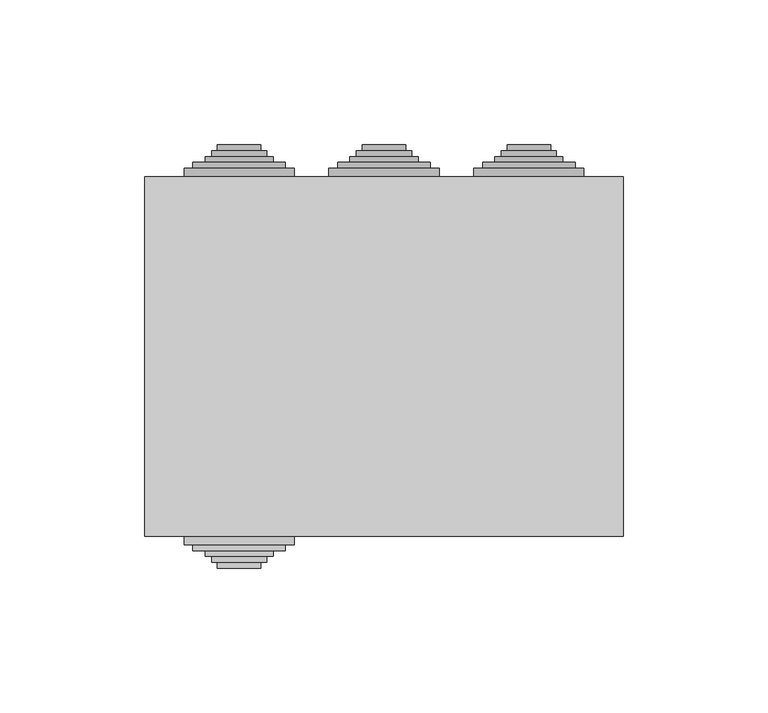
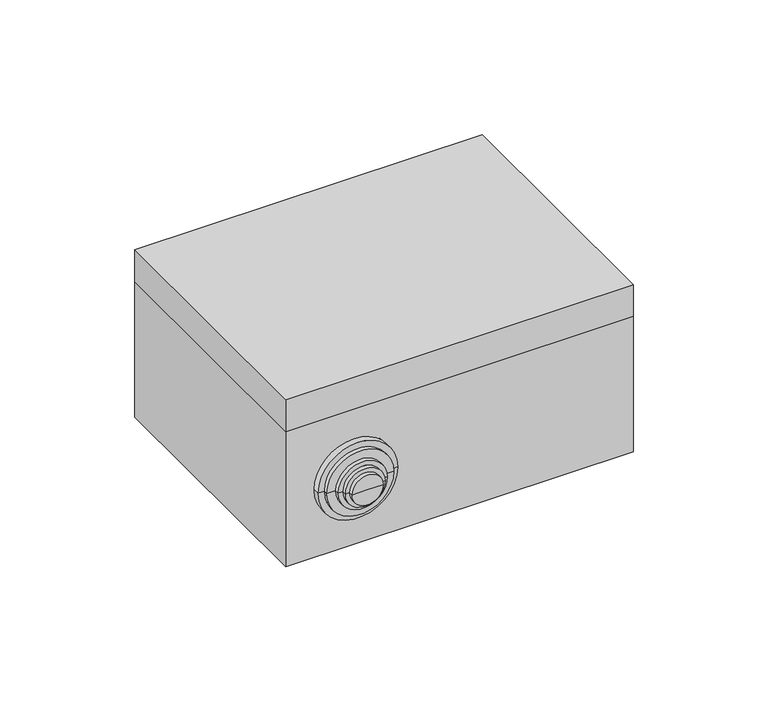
"""IFC4 building model written with IfcOpenShell, lengths in millimetres: cable carrier fitting geometry, КНС_КоробкаОтветвительнаяСКабельнымиВводами_10_IP55_DKC : с 10 кабельными вводами д.25мм, IP55, 150х110х70мм."""

from ifc_helpers import new_model, si_unit, frame, origin, place, context, project, spatial, polyline, circle_curve, faceted_brep, source, transform, mapped, element, save
from ifc_brep_helpers import plane_surface, cylinder_surface, revolved_surface, advanced_brep


def cable_carrier_fitting_b689ec4e(model_context):
    return source(origin(), model_context, "Body", "SolidModel", [
        advanced_brep(
        [(-34.0, -60.0, 34.0), (-66.0, -60.0, 34.0), (-69.0, -60.0, 34.0), (-31.0, -60.0, 34.0), (-34.0, -62.0, 34.0), (-66.0, -62.0, 34.0), (-31.0, -62.0, 34.0), (-69.0, -62.0, 34.0), (-31.0, -65.0, 34.0), (-69.0, -65.0, 34.0), (-34.0, -65.0, 34.0), (-66.0, -65.0, 34.0), (-34.0, -67.0, 34.0), (-66.0, -67.0, 34.0), (-38.25, -67.0, 34.0), (-61.75, -67.0, 34.0), (-38.25, -69.0, 34.0), (-61.75, -69.0, 34.0), (-40.5, -69.0, 34.0), (-59.5, -69.0, 34.0), (-40.5, -71.0, 34.0), (-59.5, -71.0, 34.0), (-42.5, -71.0, 34.0), (-57.5, -71.0, 34.0), (-42.5, -73.0, 34.0), (-57.5, -73.0, 34.0), (-50.0, -73.0, 34.0), (-34.0, -53.0, 34.0), (-66.0, -53.0, 34.0), (-50.0, -53.0, 34.0), (-31.0, -57.7491137, 34.0), (-69.0, -57.7491137, 34.0)],
        [
            (0, 1, circle_curve(frame((-50.0, -60.0, 34.0), z_axis=(0.0, 1.0, 0.0), x_axis=(-1.0000000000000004, 0.0, 0.0)), 16.0)),
            (1, 2),
            (2, 3, circle_curve(frame((-50.0, -60.0, 34.0), z_axis=(0.0, -1.0, 0.0), x_axis=(-1.0000000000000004, 0.0, 0.0)), 19.0)),
            (3, 0),
            (1, 0, circle_curve(frame((-50.0, -60.0, 34.0), z_axis=(0.0, 1.0, 0.0), x_axis=(-1.0000000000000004, 0.0, 0.0)), 16.0)),
            (3, 2, circle_curve(frame((-50.0, -60.0, 34.0), z_axis=(0.0, -1.0, 0.0), x_axis=(-1.0000000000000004, 0.0, 0.0)), 19.0)),
            (4, 5, circle_curve(frame((-50.0, -62.0, 34.0), z_axis=(0.0, 1.0, 0.0), x_axis=(-1.0000000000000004, 0.0, 0.0)), 16.0)),
            (5, 1),
            (0, 4),
            (5, 4, circle_curve(frame((-50.0, -62.0, 34.0), z_axis=(0.0, 1.0, 0.0), x_axis=(-1.0000000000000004, 0.0, 0.0)), 16.0)),
            (6, 7, circle_curve(frame((-50.0, -62.0, 34.0), z_axis=(0.0, 1.0, 0.0), x_axis=(-1.0000000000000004, 0.0, 0.0)), 19.0)),
            (7, 5),
            (4, 6),
            (7, 6, circle_curve(frame((-50.0, -62.0, 34.0), z_axis=(0.0, 1.0, 0.0), x_axis=(-1.0000000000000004, 0.0, 0.0)), 19.0)),
            (8, 9, circle_curve(frame((-50.0, -65.0, 34.0), z_axis=(0.0, 1.0, 0.0), x_axis=(-1.0000000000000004, 0.0, 0.0)), 19.0)),
            (9, 7),
            (6, 8),
            (9, 8, circle_curve(frame((-50.0, -65.0, 34.0), z_axis=(0.0, 1.0, 0.0), x_axis=(-1.0000000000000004, 0.0, 0.0)), 19.0)),
            (10, 11, circle_curve(frame((-50.0, -65.0, 34.0), z_axis=(0.0, 1.0, 0.0), x_axis=(-1.0000000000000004, 0.0, 0.0)), 16.0)),
            (11, 9),
            (8, 10),
            (11, 10, circle_curve(frame((-50.0, -65.0, 34.0), z_axis=(0.0, 1.0, 0.0), x_axis=(-1.0000000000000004, 0.0, 0.0)), 16.0)),
            (12, 13, circle_curve(frame((-50.0, -67.0, 34.0), z_axis=(0.0, 1.0, 0.0), x_axis=(-1.0000000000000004, 0.0, 0.0)), 16.0)),
            (13, 11),
            (10, 12),
            (13, 12, circle_curve(frame((-50.0, -67.0, 34.0), z_axis=(0.0, 1.0, 0.0), x_axis=(-1.0000000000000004, 0.0, 0.0)), 16.0)),
            (14, 15, circle_curve(frame((-50.0, -67.0, 34.0), z_axis=(0.0, 1.0, 0.0), x_axis=(-1.0000000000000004, 0.0, 0.0)), 11.75)),
            (15, 13),
            (12, 14),
            (15, 14, circle_curve(frame((-50.0, -67.0, 34.0), z_axis=(0.0, 1.0, 0.0), x_axis=(-1.0000000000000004, 0.0, 0.0)), 11.75)),
            (16, 17, circle_curve(frame((-50.0, -69.0, 34.0), z_axis=(0.0, 1.0, 0.0), x_axis=(-1.0000000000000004, 0.0, 0.0)), 11.75)),
            (17, 15),
            (14, 16),
            (17, 16, circle_curve(frame((-50.0, -69.0, 34.0), z_axis=(0.0, 1.0, 0.0), x_axis=(-1.0000000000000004, 0.0, 0.0)), 11.75)),
            (18, 19, circle_curve(frame((-50.0, -69.0, 34.0), z_axis=(0.0, 1.0, 0.0), x_axis=(-1.0000000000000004, 0.0, 0.0)), 9.5)),
            (19, 17),
            (16, 18),
            (19, 18, circle_curve(frame((-50.0, -69.0, 34.0), z_axis=(0.0, 1.0, 0.0), x_axis=(-1.0000000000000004, 0.0, 0.0)), 9.5)),
            (20, 21, circle_curve(frame((-50.0, -71.0, 34.0), z_axis=(0.0, 1.0, 0.0), x_axis=(-1.0000000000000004, 0.0, 0.0)), 9.5)),
            (21, 19),
            (18, 20),
            (21, 20, circle_curve(frame((-50.0, -71.0, 34.0), z_axis=(0.0, 1.0, 0.0), x_axis=(-1.0000000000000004, 0.0, 0.0)), 9.5)),
            (22, 23, circle_curve(frame((-50.0, -71.0, 34.0), z_axis=(0.0, 1.0, 0.0), x_axis=(-1.0000000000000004, 0.0, 0.0)), 7.5)),
            (23, 21),
            (20, 22),
            (23, 22, circle_curve(frame((-50.0, -71.0, 34.0), z_axis=(0.0, 1.0, 0.0), x_axis=(-1.0000000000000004, 0.0, 0.0)), 7.5)),
            (24, 25, circle_curve(frame((-50.0, -73.0, 34.0), z_axis=(0.0, 1.0, 0.0), x_axis=(-1.0000000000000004, 0.0, 0.0)), 7.5)),
            (25, 23),
            (22, 24),
            (25, 24, circle_curve(frame((-50.0, -73.0, 34.0), z_axis=(0.0, 1.0, 0.0), x_axis=(-1.0000000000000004, 0.0, 0.0)), 7.5)),
            (26, 25),
            (24, 26),
            (27, 28, circle_curve(frame((-50.0, -53.0, 34.0), z_axis=(0.0, 1.0, 0.0), x_axis=(-1.0000000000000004, 0.0, 0.0)), 16.0)),
            (28, 29),
            (29, 27),
            (28, 27, circle_curve(frame((-50.0, -53.0, 34.0), z_axis=(0.0, 1.0, 0.0), x_axis=(-1.0000000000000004, 0.0, 0.0)), 16.0)),
            (30, 31, circle_curve(frame((-50.0, -57.7491137, 34.0), z_axis=(0.0, 1.0, 0.0), x_axis=(-1.0000000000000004, 0.0, 0.0)), 19.0)),
            (31, 28),
            (27, 30),
            (31, 30, circle_curve(frame((-50.0, -57.7491137, 34.0), z_axis=(0.0, 1.0, 0.0), x_axis=(-1.0000000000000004, 0.0, 0.0)), 19.0)),
            (2, 31),
            (30, 3),
        ],
        [
            plane_surface(frame((-50.0, -60.0, 34.0), z_axis=(0.0, -1.0, 0.0), x_axis=(-1.0, 0.0, 0.0))),
            cylinder_surface(frame((-50.0, 1453.0, 34.0), z_axis=(0.0, -1.0000000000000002, 0.0), x_axis=(-1.0000000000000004, 0.0, 0.0)), 16.0),
            plane_surface(frame((-50.0, -62.0, 34.0), z_axis=(0.0, 1.0, 0.0), x_axis=(-1.0, 0.0, 0.0))),
            cylinder_surface(frame((-50.0, 1453.0, 34.0), z_axis=(0.0, -1.0000000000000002, 0.0), x_axis=(-1.0000000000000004, 0.0, 0.0)), 19.0),
            plane_surface(frame((-50.0, -65.0, 34.0), z_axis=(0.0, -1.0, 0.0), x_axis=(-1.0, 0.0, 0.0))),
            plane_surface(frame((-50.0, -67.0, 34.0), z_axis=(0.0, -1.0, 0.0), x_axis=(-1.0, 0.0, 0.0))),
            cylinder_surface(frame((-50.0, 1453.0, 34.0), z_axis=(0.0, -1.0000000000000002, 0.0), x_axis=(-1.0000000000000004, 0.0, 0.0)), 11.75),
            plane_surface(frame((-50.0, -69.0, 34.0), z_axis=(0.0, -1.0, 0.0), x_axis=(-1.0, 0.0, 0.0))),
            cylinder_surface(frame((-50.0, 1453.0, 34.0), z_axis=(0.0, -1.0000000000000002, 0.0), x_axis=(-1.0000000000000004, 0.0, 0.0)), 9.5),
            plane_surface(frame((-50.0, -71.0, 34.0), z_axis=(0.0, -1.0, 0.0), x_axis=(-1.0, 0.0, 0.0))),
            cylinder_surface(frame((-50.0, 1453.0, 34.0), z_axis=(0.0, -1.0000000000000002, 0.0), x_axis=(-1.0000000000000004, 0.0, 0.0)), 7.5),
            plane_surface(frame((-50.0, -73.0, 34.0), z_axis=(0.0, -1.0, 0.0), x_axis=(-1.0, 0.0, 0.0))),
            plane_surface(frame((-50.0, -53.0, 34.0), z_axis=(0.0, 1.0, 0.0), x_axis=(-1.0, 0.0, 0.0))),
            revolved_surface(polyline([(-66.0, -53.0, 34.0), (-69.0, -57.7491137, 34.0)]), (-50.0, 1453.0, 34.0), (0.0, -1.0000000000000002, 0.0)),
        ],
        [
            (0, [[1, 2, 3, 4]]),
            (0, [[5, -4, 6, -2]]),
            (1, [[7, 8, -1, 9]]),
            (1, [[10, -9, -5, -8]]),
            (2, [[11, 12, -7, 13]]),
            (2, [[14, -13, -10, -12]]),
            (3, [[15, 16, -11, 17]]),
            (3, [[18, -17, -14, -16]]),
            (4, [[19, 20, -15, 21]]),
            (4, [[22, -21, -18, -20]]),
            (1, [[23, 24, -19, 25]]),
            (1, [[26, -25, -22, -24]]),
            (5, [[27, 28, -23, 29]]),
            (5, [[30, -29, -26, -28]]),
            (6, [[31, 32, -27, 33]]),
            (6, [[34, -33, -30, -32]]),
            (7, [[35, 36, -31, 37]]),
            (7, [[38, -37, -34, -36]]),
            (8, [[39, 40, -35, 41]]),
            (8, [[42, -41, -38, -40]]),
            (9, [[43, 44, -39, 45]]),
            (9, [[46, -45, -42, -44]]),
            (10, [[47, 48, -43, 49]]),
            (10, [[50, -49, -46, -48]]),
            (11, [[51, -47, 52]]),
            (11, [[-52, -50, -51]]),
            (12, [[53, 54, 55]]),
            (12, [[56, -55, -54]]),
            (13, [[57, 58, -53, 59]]),
            (13, [[60, -59, -56, -58]]),
            (3, [[-3, 61, -57, 62]]),
            (3, [[-6, -62, -60, -61]]),
        ],
    ),
        advanced_brep(
        [(34.0, 60.0, 34.0), (66.0, 60.0, 34.0), (69.0, 60.0, 34.0), (31.0, 60.0, 34.0), (34.0, 62.0, 34.0), (66.0, 62.0, 34.0), (31.0, 62.0, 34.0), (69.0, 62.0, 34.0), (31.0, 65.0, 34.0), (69.0, 65.0, 34.0), (34.0, 65.0, 34.0), (66.0, 65.0, 34.0), (34.0, 67.0, 34.0), (66.0, 67.0, 34.0), (38.25, 67.0, 34.0), (61.75, 67.0, 34.0), (38.25, 69.0, 34.0), (61.75, 69.0, 34.0), (40.5, 69.0, 34.0), (59.5, 69.0, 34.0), (40.5, 71.0, 34.0), (59.5, 71.0, 34.0), (42.5, 71.0, 34.0), (57.5, 71.0, 34.0), (42.5, 73.0, 34.0), (57.5, 73.0, 34.0), (50.0, 73.0, 34.0), (34.0, 53.0, 34.0), (66.0, 53.0, 34.0), (50.0, 53.0, 34.0), (31.0, 57.7491137, 34.0), (69.0, 57.7491137, 34.0)],
        [
            (0, 1, circle_curve(frame((50.0, 60.0, 34.0), z_axis=(0.0, -1.0, 0.0), x_axis=(1.0, 0.0, 0.0)), 16.0)),
            (1, 2),
            (2, 3, circle_curve(frame((50.0, 60.0, 34.0), z_axis=(0.0, 1.0, 0.0), x_axis=(1.0, 0.0, 0.0)), 19.0)),
            (3, 0),
            (1, 0, circle_curve(frame((50.0, 60.0, 34.0), z_axis=(0.0, -1.0, 0.0), x_axis=(1.0, 0.0, 0.0)), 16.0)),
            (3, 2, circle_curve(frame((50.0, 60.0, 34.0), z_axis=(0.0, 1.0, 0.0), x_axis=(1.0, 0.0, 0.0)), 19.0)),
            (4, 5, circle_curve(frame((50.0, 62.0, 34.0), z_axis=(0.0, -1.0, 0.0), x_axis=(1.0, 0.0, 0.0)), 16.0)),
            (5, 1),
            (0, 4),
            (5, 4, circle_curve(frame((50.0, 62.0, 34.0), z_axis=(0.0, -1.0, 0.0), x_axis=(1.0, 0.0, 0.0)), 16.0)),
            (6, 7, circle_curve(frame((50.0, 62.0, 34.0), z_axis=(0.0, -1.0, 0.0), x_axis=(1.0, 0.0, 0.0)), 19.0)),
            (7, 5),
            (4, 6),
            (7, 6, circle_curve(frame((50.0, 62.0, 34.0), z_axis=(0.0, -1.0, 0.0), x_axis=(1.0, 0.0, 0.0)), 19.0)),
            (8, 9, circle_curve(frame((50.0, 65.0, 34.0), z_axis=(0.0, -1.0, 0.0), x_axis=(1.0, 0.0, 0.0)), 19.0)),
            (9, 7),
            (6, 8),
            (9, 8, circle_curve(frame((50.0, 65.0, 34.0), z_axis=(0.0, -1.0, 0.0), x_axis=(1.0, 0.0, 0.0)), 19.0)),
            (10, 11, circle_curve(frame((50.0, 65.0, 34.0), z_axis=(0.0, -1.0, 0.0), x_axis=(1.0, 0.0, 0.0)), 16.0)),
            (11, 9),
            (8, 10),
            (11, 10, circle_curve(frame((50.0, 65.0, 34.0), z_axis=(0.0, -1.0, 0.0), x_axis=(1.0, 0.0, 0.0)), 16.0)),
            (12, 13, circle_curve(frame((50.0, 67.0, 34.0), z_axis=(0.0, -1.0, 0.0), x_axis=(1.0, 0.0, 0.0)), 16.0)),
            (13, 11),
            (10, 12),
            (13, 12, circle_curve(frame((50.0, 67.0, 34.0), z_axis=(0.0, -1.0, 0.0), x_axis=(1.0, 0.0, 0.0)), 16.0)),
            (14, 15, circle_curve(frame((50.0, 67.0, 34.0), z_axis=(0.0, -1.0, 0.0), x_axis=(1.0, 0.0, 0.0)), 11.75)),
            (15, 13),
            (12, 14),
            (15, 14, circle_curve(frame((50.0, 67.0, 34.0), z_axis=(0.0, -1.0, 0.0), x_axis=(1.0, 0.0, 0.0)), 11.75)),
            (16, 17, circle_curve(frame((50.0, 69.0, 34.0), z_axis=(0.0, -1.0, 0.0), x_axis=(1.0, 0.0, 0.0)), 11.75)),
            (17, 15),
            (14, 16),
            (17, 16, circle_curve(frame((50.0, 69.0, 34.0), z_axis=(0.0, -1.0, 0.0), x_axis=(1.0, 0.0, 0.0)), 11.75)),
            (18, 19, circle_curve(frame((50.0, 69.0, 34.0), z_axis=(0.0, -1.0, 0.0), x_axis=(1.0, 0.0, 0.0)), 9.5)),
            (19, 17),
            (16, 18),
            (19, 18, circle_curve(frame((50.0, 69.0, 34.0), z_axis=(0.0, -1.0, 0.0), x_axis=(1.0, 0.0, 0.0)), 9.5)),
            (20, 21, circle_curve(frame((50.0, 71.0, 34.0), z_axis=(0.0, -1.0, 0.0), x_axis=(1.0, 0.0, 0.0)), 9.5)),
            (21, 19),
            (18, 20),
            (21, 20, circle_curve(frame((50.0, 71.0, 34.0), z_axis=(0.0, -1.0, 0.0), x_axis=(1.0, 0.0, 0.0)), 9.5)),
            (22, 23, circle_curve(frame((50.0, 71.0, 34.0), z_axis=(0.0, -1.0, 0.0), x_axis=(1.0, 0.0, 0.0)), 7.5)),
            (23, 21),
            (20, 22),
            (23, 22, circle_curve(frame((50.0, 71.0, 34.0), z_axis=(0.0, -1.0, 0.0), x_axis=(1.0, 0.0, 0.0)), 7.5)),
            (24, 25, circle_curve(frame((50.0, 73.0, 34.0), z_axis=(0.0, -1.0, 0.0), x_axis=(1.0, 0.0, 0.0)), 7.5)),
            (25, 23),
            (22, 24),
            (25, 24, circle_curve(frame((50.0, 73.0, 34.0), z_axis=(0.0, -1.0, 0.0), x_axis=(1.0, 0.0, 0.0)), 7.5)),
            (26, 25),
            (24, 26),
            (27, 28, circle_curve(frame((50.0, 53.0, 34.0), z_axis=(0.0, -1.0, 0.0), x_axis=(1.0, 0.0, 0.0)), 16.0)),
            (28, 29),
            (29, 27),
            (28, 27, circle_curve(frame((50.0, 53.0, 34.0), z_axis=(0.0, -1.0, 0.0), x_axis=(1.0, 0.0, 0.0)), 16.0)),
            (30, 31, circle_curve(frame((50.0, 57.7491137, 34.0), z_axis=(0.0, -1.0, 0.0), x_axis=(1.0, 0.0, 0.0)), 19.0)),
            (31, 28),
            (27, 30),
            (31, 30, circle_curve(frame((50.0, 57.7491137, 34.0), z_axis=(0.0, -1.0, 0.0), x_axis=(1.0, 0.0, 0.0)), 19.0)),
            (2, 31),
            (30, 3),
        ],
        [
            plane_surface(frame((50.0, 60.0, 34.0), z_axis=(0.0, 1.0, 0.0), x_axis=(1.0, 0.0, 0.0))),
            cylinder_surface(frame((50.0, -1453.0, 34.0), z_axis=(0.0, 1.0, 0.0), x_axis=(1.0, 0.0, 0.0)), 16.0),
            plane_surface(frame((50.0, 62.0, 34.0), z_axis=(0.0, -1.0, 0.0), x_axis=(1.0, 0.0, 0.0))),
            cylinder_surface(frame((50.0, -1453.0, 34.0), z_axis=(0.0, 1.0, 0.0), x_axis=(1.0, 0.0, 0.0)), 19.0),
            plane_surface(frame((50.0, 65.0, 34.0), z_axis=(0.0, 1.0, 0.0), x_axis=(1.0, 0.0, 0.0))),
            plane_surface(frame((50.0, 67.0, 34.0), z_axis=(0.0, 1.0, 0.0), x_axis=(1.0, 0.0, 0.0))),
            cylinder_surface(frame((50.0, -1453.0, 34.0), z_axis=(0.0, 1.0, 0.0), x_axis=(1.0, 0.0, 0.0)), 11.75),
            plane_surface(frame((50.0, 69.0, 34.0), z_axis=(0.0, 1.0, 0.0), x_axis=(1.0, 0.0, 0.0))),
            cylinder_surface(frame((50.0, -1453.0, 34.0), z_axis=(0.0, 1.0, 0.0), x_axis=(1.0, 0.0, 0.0)), 9.5),
            plane_surface(frame((50.0, 71.0, 34.0), z_axis=(0.0, 1.0, 0.0), x_axis=(1.0, 0.0, 0.0))),
            cylinder_surface(frame((50.0, -1453.0, 34.0), z_axis=(0.0, 1.0, 0.0), x_axis=(1.0, 0.0, 0.0)), 7.5),
            plane_surface(frame((50.0, 73.0, 34.0), z_axis=(0.0, 1.0, 0.0), x_axis=(1.0, 0.0, 0.0))),
            plane_surface(frame((50.0, 53.0, 34.0), z_axis=(0.0, -1.0, 0.0), x_axis=(1.0, 0.0, 0.0))),
            revolved_surface(polyline([(66.0, 53.0, 34.0), (69.0, 57.7491137, 34.0)]), (50.0, -1453.0, 34.0), (0.0, 1.0, 0.0)),
        ],
        [
            (0, [[1, 2, 3, 4]]),
            (0, [[5, -4, 6, -2]]),
            (1, [[7, 8, -1, 9]]),
            (1, [[10, -9, -5, -8]]),
            (2, [[11, 12, -7, 13]]),
            (2, [[14, -13, -10, -12]]),
            (3, [[15, 16, -11, 17]]),
            (3, [[18, -17, -14, -16]]),
            (4, [[19, 20, -15, 21]]),
            (4, [[22, -21, -18, -20]]),
            (1, [[23, 24, -19, 25]]),
            (1, [[26, -25, -22, -24]]),
            (5, [[27, 28, -23, 29]]),
            (5, [[30, -29, -26, -28]]),
            (6, [[31, 32, -27, 33]]),
            (6, [[34, -33, -30, -32]]),
            (7, [[35, 36, -31, 37]]),
            (7, [[38, -37, -34, -36]]),
            (8, [[39, 40, -35, 41]]),
            (8, [[42, -41, -38, -40]]),
            (9, [[43, 44, -39, 45]]),
            (9, [[46, -45, -42, -44]]),
            (10, [[47, 48, -43, 49]]),
            (10, [[50, -49, -46, -48]]),
            (11, [[51, -47, 52]]),
            (11, [[-52, -50, -51]]),
            (12, [[53, 54, 55]]),
            (12, [[56, -55, -54]]),
            (13, [[57, 58, -53, 59]]),
            (13, [[60, -59, -56, -58]]),
            (3, [[-3, 61, -57, 62]]),
            (3, [[-6, -62, -60, -61]]),
        ],
    ),
        advanced_brep(
        [(-16.0, 60.0, 34.0), (16.0, 60.0, 34.0), (19.0, 60.0, 34.0), (-19.0, 60.0, 34.0), (-16.0, 62.0, 34.0), (16.0, 62.0, 34.0), (-19.0, 62.0, 34.0), (19.0, 62.0, 34.0), (-19.0, 65.0, 34.0), (19.0, 65.0, 34.0), (-16.0, 65.0, 34.0), (16.0, 65.0, 34.0), (-16.0, 67.0, 34.0), (16.0, 67.0, 34.0), (-11.75, 67.0, 34.0), (11.75, 67.0, 34.0), (-11.75, 69.0, 34.0), (11.75, 69.0, 34.0), (-9.5, 69.0, 34.0), (9.5, 69.0, 34.0), (-9.5, 71.0, 34.0), (9.5, 71.0, 34.0), (-7.5, 71.0, 34.0), (7.5, 71.0, 34.0), (-7.5, 73.0, 34.0), (7.5, 73.0, 34.0), (0.0, 73.0, 34.0), (-16.0, 53.0, 34.0), (16.0, 53.0, 34.0), (0.0, 53.0, 34.0), (-19.0, 57.7491137, 34.0), (19.0, 57.7491137, 34.0)],
        [
            (0, 1, circle_curve(frame((0.0, 60.0, 34.0), z_axis=(0.0, -1.0, 0.0), x_axis=(1.0, 0.0, 0.0)), 16.0)),
            (1, 2),
            (2, 3, circle_curve(frame((0.0, 60.0, 34.0), z_axis=(0.0, 1.0, 0.0), x_axis=(1.0, 0.0, 0.0)), 19.0)),
            (3, 0),
            (1, 0, circle_curve(frame((0.0, 60.0, 34.0), z_axis=(0.0, -1.0, 0.0), x_axis=(1.0, 0.0, 0.0)), 16.0)),
            (3, 2, circle_curve(frame((0.0, 60.0, 34.0), z_axis=(0.0, 1.0, 0.0), x_axis=(1.0, 0.0, 0.0)), 19.0)),
            (4, 5, circle_curve(frame((0.0, 62.0, 34.0), z_axis=(0.0, -1.0, 0.0), x_axis=(1.0, 0.0, 0.0)), 16.0)),
            (5, 1),
            (0, 4),
            (5, 4, circle_curve(frame((0.0, 62.0, 34.0), z_axis=(0.0, -1.0, 0.0), x_axis=(1.0, 0.0, 0.0)), 16.0)),
            (6, 7, circle_curve(frame((0.0, 62.0, 34.0), z_axis=(0.0, -1.0, 0.0), x_axis=(1.0, 0.0, 0.0)), 19.0)),
            (7, 5),
            (4, 6),
            (7, 6, circle_curve(frame((0.0, 62.0, 34.0), z_axis=(0.0, -1.0, 0.0), x_axis=(1.0, 0.0, 0.0)), 19.0)),
            (8, 9, circle_curve(frame((0.0, 65.0, 34.0), z_axis=(0.0, -1.0, 0.0), x_axis=(1.0, 0.0, 0.0)), 19.0)),
            (9, 7),
            (6, 8),
            (9, 8, circle_curve(frame((0.0, 65.0, 34.0), z_axis=(0.0, -1.0, 0.0), x_axis=(1.0, 0.0, 0.0)), 19.0)),
            (10, 11, circle_curve(frame((0.0, 65.0, 34.0), z_axis=(0.0, -1.0, 0.0), x_axis=(1.0, 0.0, 0.0)), 16.0)),
            (11, 9),
            (8, 10),
            (11, 10, circle_curve(frame((0.0, 65.0, 34.0), z_axis=(0.0, -1.0, 0.0), x_axis=(1.0, 0.0, 0.0)), 16.0)),
            (12, 13, circle_curve(frame((0.0, 67.0, 34.0), z_axis=(0.0, -1.0, 0.0), x_axis=(1.0, 0.0, 0.0)), 16.0)),
            (13, 11),
            (10, 12),
            (13, 12, circle_curve(frame((0.0, 67.0, 34.0), z_axis=(0.0, -1.0, 0.0), x_axis=(1.0, 0.0, 0.0)), 16.0)),
            (14, 15, circle_curve(frame((0.0, 67.0, 34.0), z_axis=(0.0, -1.0, 0.0), x_axis=(1.0, 0.0, 0.0)), 11.75)),
            (15, 13),
            (12, 14),
            (15, 14, circle_curve(frame((0.0, 67.0, 34.0), z_axis=(0.0, -1.0, 0.0), x_axis=(1.0, 0.0, 0.0)), 11.75)),
            (16, 17, circle_curve(frame((0.0, 69.0, 34.0), z_axis=(0.0, -1.0, 0.0), x_axis=(1.0, 0.0, 0.0)), 11.75)),
            (17, 15),
            (14, 16),
            (17, 16, circle_curve(frame((0.0, 69.0, 34.0), z_axis=(0.0, -1.0, 0.0), x_axis=(1.0, 0.0, 0.0)), 11.75)),
            (18, 19, circle_curve(frame((0.0, 69.0, 34.0), z_axis=(0.0, -1.0, 0.0), x_axis=(1.0, 0.0, 0.0)), 9.5)),
            (19, 17),
            (16, 18),
            (19, 18, circle_curve(frame((0.0, 69.0, 34.0), z_axis=(0.0, -1.0, 0.0), x_axis=(1.0, 0.0, 0.0)), 9.5)),
            (20, 21, circle_curve(frame((0.0, 71.0, 34.0), z_axis=(0.0, -1.0, 0.0), x_axis=(1.0, 0.0, 0.0)), 9.5)),
            (21, 19),
            (18, 20),
            (21, 20, circle_curve(frame((0.0, 71.0, 34.0), z_axis=(0.0, -1.0, 0.0), x_axis=(1.0, 0.0, 0.0)), 9.5)),
            (22, 23, circle_curve(frame((0.0, 71.0, 34.0), z_axis=(0.0, -1.0, 0.0), x_axis=(1.0, 0.0, 0.0)), 7.5)),
            (23, 21),
            (20, 22),
            (23, 22, circle_curve(frame((0.0, 71.0, 34.0), z_axis=(0.0, -1.0, 0.0), x_axis=(1.0, 0.0, 0.0)), 7.5)),
            (24, 25, circle_curve(frame((0.0, 73.0, 34.0), z_axis=(0.0, -1.0, 0.0), x_axis=(1.0, 0.0, 0.0)), 7.5)),
            (25, 23),
            (22, 24),
            (25, 24, circle_curve(frame((0.0, 73.0, 34.0), z_axis=(0.0, -1.0, 0.0), x_axis=(1.0, 0.0, 0.0)), 7.5)),
            (26, 25),
            (24, 26),
            (27, 28, circle_curve(frame((0.0, 53.0, 34.0), z_axis=(0.0, -1.0, 0.0), x_axis=(1.0, 0.0, 0.0)), 16.0)),
            (28, 29),
            (29, 27),
            (28, 27, circle_curve(frame((0.0, 53.0, 34.0), z_axis=(0.0, -1.0, 0.0), x_axis=(1.0, 0.0, 0.0)), 16.0)),
            (30, 31, circle_curve(frame((0.0, 57.7491137, 34.0), z_axis=(0.0, -1.0, 0.0), x_axis=(1.0, 0.0, 0.0)), 19.0)),
            (31, 28),
            (27, 30),
            (31, 30, circle_curve(frame((0.0, 57.7491137, 34.0), z_axis=(0.0, -1.0, 0.0), x_axis=(1.0, 0.0, 0.0)), 19.0)),
            (2, 31),
            (30, 3),
        ],
        [
            plane_surface(frame((0.0, 60.0, 34.0), z_axis=(0.0, 1.0, 0.0), x_axis=(1.0, 0.0, 0.0))),
            cylinder_surface(frame((0.0, -1453.0, 34.0), z_axis=(0.0, 1.0, 0.0), x_axis=(1.0, 0.0, 0.0)), 16.0),
            plane_surface(frame((0.0, 62.0, 34.0), z_axis=(0.0, -1.0, 0.0), x_axis=(1.0, 0.0, 0.0))),
            cylinder_surface(frame((0.0, -1453.0, 34.0), z_axis=(0.0, 1.0, 0.0), x_axis=(1.0, 0.0, 0.0)), 19.0),
            plane_surface(frame((0.0, 65.0, 34.0), z_axis=(0.0, 1.0, 0.0), x_axis=(1.0, 0.0, 0.0))),
            plane_surface(frame((0.0, 67.0, 34.0), z_axis=(0.0, 1.0, 0.0), x_axis=(1.0, 0.0, 0.0))),
            cylinder_surface(frame((0.0, -1453.0, 34.0), z_axis=(0.0, 1.0, 0.0), x_axis=(1.0, 0.0, 0.0)), 11.75),
            plane_surface(frame((0.0, 69.0, 34.0), z_axis=(0.0, 1.0, 0.0), x_axis=(1.0, 0.0, 0.0))),
            cylinder_surface(frame((0.0, -1453.0, 34.0), z_axis=(0.0, 1.0, 0.0), x_axis=(1.0, 0.0, 0.0)), 9.5),
            plane_surface(frame((0.0, 71.0, 34.0), z_axis=(0.0, 1.0, 0.0), x_axis=(1.0, 0.0, 0.0))),
            cylinder_surface(frame((0.0, -1453.0, 34.0), z_axis=(0.0, 1.0, 0.0), x_axis=(1.0, 0.0, 0.0)), 7.5),
            plane_surface(frame((0.0, 73.0, 34.0), z_axis=(0.0, 1.0, 0.0), x_axis=(1.0, 0.0, 0.0))),
            plane_surface(frame((0.0, 53.0, 34.0), z_axis=(0.0, -1.0, 0.0), x_axis=(1.0, 0.0, 0.0))),
            revolved_surface(polyline([(16.0, 53.0, 34.0), (19.0, 57.7491137, 34.0)]), (0.0, -1453.0, 34.0), (0.0, 1.0, 0.0)),
        ],
        [
            (0, [[1, 2, 3, 4]]),
            (0, [[5, -4, 6, -2]]),
            (1, [[7, 8, -1, 9]]),
            (1, [[10, -9, -5, -8]]),
            (2, [[11, 12, -7, 13]]),
            (2, [[14, -13, -10, -12]]),
            (3, [[15, 16, -11, 17]]),
            (3, [[18, -17, -14, -16]]),
            (4, [[19, 20, -15, 21]]),
            (4, [[22, -21, -18, -20]]),
            (1, [[23, 24, -19, 25]]),
            (1, [[26, -25, -22, -24]]),
            (5, [[27, 28, -23, 29]]),
            (5, [[30, -29, -26, -28]]),
            (6, [[31, 32, -27, 33]]),
            (6, [[34, -33, -30, -32]]),
            (7, [[35, 36, -31, 37]]),
            (7, [[38, -37, -34, -36]]),
            (8, [[39, 40, -35, 41]]),
            (8, [[42, -41, -38, -40]]),
            (9, [[43, 44, -39, 45]]),
            (9, [[46, -45, -42, -44]]),
            (10, [[47, 48, -43, 49]]),
            (10, [[50, -49, -46, -48]]),
            (11, [[51, -47, 52]]),
            (11, [[-52, -50, -51]]),
            (12, [[53, 54, 55]]),
            (12, [[56, -55, -54]]),
            (13, [[57, 58, -53, 59]]),
            (13, [[60, -59, -56, -58]]),
            (3, [[-3, 61, -57, 62]]),
            (3, [[-6, -62, -60, -61]]),
        ],
    ),
        advanced_brep(
        [(-66.0, 60.0, 34.0), (-34.0, 60.0, 34.0), (-31.0, 60.0, 34.0), (-69.0, 60.0, 34.0), (-66.0, 62.0, 34.0), (-34.0, 62.0, 34.0), (-69.0, 62.0, 34.0), (-31.0, 62.0, 34.0), (-69.0, 65.0, 34.0), (-31.0, 65.0, 34.0), (-66.0, 65.0, 34.0), (-34.0, 65.0, 34.0), (-66.0, 67.0, 34.0), (-34.0, 67.0, 34.0), (-61.75, 67.0, 34.0), (-38.25, 67.0, 34.0), (-61.75, 69.0, 34.0), (-38.25, 69.0, 34.0), (-59.5, 69.0, 34.0), (-40.5, 69.0, 34.0), (-59.5, 71.0, 34.0), (-40.5, 71.0, 34.0), (-57.5, 71.0, 34.0), (-42.5, 71.0, 34.0), (-57.5, 73.0, 34.0), (-42.5, 73.0, 34.0), (-50.0, 73.0, 34.0), (-66.0, 53.0, 34.0), (-34.0, 53.0, 34.0), (-50.0, 53.0, 34.0), (-69.0, 57.7491137, 34.0), (-31.0, 57.7491137, 34.0)],
        [
            (0, 1, circle_curve(frame((-50.0, 60.0, 34.0), z_axis=(0.0, -1.0, 0.0), x_axis=(1.0000000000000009, 0.0, 0.0)), 16.0)),
            (1, 2),
            (2, 3, circle_curve(frame((-50.0, 60.0, 34.0), z_axis=(0.0, 1.0, 0.0), x_axis=(1.0000000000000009, 0.0, 0.0)), 19.0)),
            (3, 0),
            (1, 0, circle_curve(frame((-50.0, 60.0, 34.0), z_axis=(0.0, -1.0, 0.0), x_axis=(1.0000000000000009, 0.0, 0.0)), 16.0)),
            (3, 2, circle_curve(frame((-50.0, 60.0, 34.0), z_axis=(0.0, 1.0, 0.0), x_axis=(1.0000000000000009, 0.0, 0.0)), 19.0)),
            (4, 5, circle_curve(frame((-50.0, 62.0, 34.0), z_axis=(0.0, -1.0, 0.0), x_axis=(1.0000000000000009, 0.0, 0.0)), 16.0)),
            (5, 1),
            (0, 4),
            (5, 4, circle_curve(frame((-50.0, 62.0, 34.0), z_axis=(0.0, -1.0, 0.0), x_axis=(1.0000000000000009, 0.0, 0.0)), 16.0)),
            (6, 7, circle_curve(frame((-50.0, 62.0, 34.0), z_axis=(0.0, -1.0, 0.0), x_axis=(1.0000000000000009, 0.0, 0.0)), 19.0)),
            (7, 5),
            (4, 6),
            (7, 6, circle_curve(frame((-50.0, 62.0, 34.0), z_axis=(0.0, -1.0, 0.0), x_axis=(1.0000000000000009, 0.0, 0.0)), 19.0)),
            (8, 9, circle_curve(frame((-50.0, 65.0, 34.0), z_axis=(0.0, -1.0, 0.0), x_axis=(1.0000000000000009, 0.0, 0.0)), 19.0)),
            (9, 7),
            (6, 8),
            (9, 8, circle_curve(frame((-50.0, 65.0, 34.0), z_axis=(0.0, -1.0, 0.0), x_axis=(1.0000000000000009, 0.0, 0.0)), 19.0)),
            (10, 11, circle_curve(frame((-50.0, 65.0, 34.0), z_axis=(0.0, -1.0, 0.0), x_axis=(1.0000000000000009, 0.0, 0.0)), 16.0)),
            (11, 9),
            (8, 10),
            (11, 10, circle_curve(frame((-50.0, 65.0, 34.0), z_axis=(0.0, -1.0, 0.0), x_axis=(1.0000000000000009, 0.0, 0.0)), 16.0)),
            (12, 13, circle_curve(frame((-50.0, 67.0, 34.0), z_axis=(0.0, -1.0, 0.0), x_axis=(1.0000000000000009, 0.0, 0.0)), 16.0)),
            (13, 11),
            (10, 12),
            (13, 12, circle_curve(frame((-50.0, 67.0, 34.0), z_axis=(0.0, -1.0, 0.0), x_axis=(1.0000000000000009, 0.0, 0.0)), 16.0)),
            (14, 15, circle_curve(frame((-50.0, 67.0, 34.0), z_axis=(0.0, -1.0, 0.0), x_axis=(1.0000000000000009, 0.0, 0.0)), 11.75)),
            (15, 13),
            (12, 14),
            (15, 14, circle_curve(frame((-50.0, 67.0, 34.0), z_axis=(0.0, -1.0, 0.0), x_axis=(1.0000000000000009, 0.0, 0.0)), 11.75)),
            (16, 17, circle_curve(frame((-50.0, 69.0, 34.0), z_axis=(0.0, -1.0, 0.0), x_axis=(1.0000000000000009, 0.0, 0.0)), 11.75)),
            (17, 15),
            (14, 16),
            (17, 16, circle_curve(frame((-50.0, 69.0, 34.0), z_axis=(0.0, -1.0, 0.0), x_axis=(1.0000000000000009, 0.0, 0.0)), 11.75)),
            (18, 19, circle_curve(frame((-50.0, 69.0, 34.0), z_axis=(0.0, -1.0, 0.0), x_axis=(1.0000000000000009, 0.0, 0.0)), 9.5)),
            (19, 17),
            (16, 18),
            (19, 18, circle_curve(frame((-50.0, 69.0, 34.0), z_axis=(0.0, -1.0, 0.0), x_axis=(1.0000000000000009, 0.0, 0.0)), 9.5)),
            (20, 21, circle_curve(frame((-50.0, 71.0, 34.0), z_axis=(0.0, -1.0, 0.0), x_axis=(1.0000000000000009, 0.0, 0.0)), 9.5)),
            (21, 19),
            (18, 20),
            (21, 20, circle_curve(frame((-50.0, 71.0, 34.0), z_axis=(0.0, -1.0, 0.0), x_axis=(1.0000000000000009, 0.0, 0.0)), 9.5)),
            (22, 23, circle_curve(frame((-50.0, 71.0, 34.0), z_axis=(0.0, -1.0, 0.0), x_axis=(1.0000000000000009, 0.0, 0.0)), 7.5)),
            (23, 21),
            (20, 22),
            (23, 22, circle_curve(frame((-50.0, 71.0, 34.0), z_axis=(0.0, -1.0, 0.0), x_axis=(1.0000000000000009, 0.0, 0.0)), 7.5)),
            (24, 25, circle_curve(frame((-50.0, 73.0, 34.0), z_axis=(0.0, -1.0, 0.0), x_axis=(1.0000000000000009, 0.0, 0.0)), 7.5)),
            (25, 23),
            (22, 24),
            (25, 24, circle_curve(frame((-50.0, 73.0, 34.0), z_axis=(0.0, -1.0, 0.0), x_axis=(1.0000000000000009, 0.0, 0.0)), 7.5)),
            (26, 25),
            (24, 26),
            (27, 28, circle_curve(frame((-50.0, 53.0, 34.0), z_axis=(0.0, -1.0, 0.0), x_axis=(1.0000000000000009, 0.0, 0.0)), 16.0)),
            (28, 29),
            (29, 27),
            (28, 27, circle_curve(frame((-50.0, 53.0, 34.0), z_axis=(0.0, -1.0, 0.0), x_axis=(1.0000000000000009, 0.0, 0.0)), 16.0)),
            (30, 31, circle_curve(frame((-50.0, 57.7491137, 34.0), z_axis=(0.0, -1.0, 0.0), x_axis=(1.0000000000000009, 0.0, 0.0)), 19.0)),
            (31, 28),
            (27, 30),
            (31, 30, circle_curve(frame((-50.0, 57.7491137, 34.0), z_axis=(0.0, -1.0, 0.0), x_axis=(1.0000000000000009, 0.0, 0.0)), 19.0)),
            (2, 31),
            (30, 3),
        ],
        [
            plane_surface(frame((-50.0, 60.0, 34.0), z_axis=(0.0, 1.0, 0.0), x_axis=(1.0, 0.0, 0.0))),
            cylinder_surface(frame((-50.0, -1453.0, 34.0), z_axis=(0.0, 1.0000000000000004, 0.0), x_axis=(1.0000000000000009, 0.0, 0.0)), 16.0),
            plane_surface(frame((-50.0, 62.0, 34.0), z_axis=(0.0, -1.0, 0.0), x_axis=(1.0, 0.0, 0.0))),
            cylinder_surface(frame((-50.0, -1453.0, 34.0), z_axis=(0.0, 1.0000000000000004, 0.0), x_axis=(1.0000000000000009, 0.0, 0.0)), 19.0),
            plane_surface(frame((-50.0, 65.0, 34.0), z_axis=(0.0, 1.0, 0.0), x_axis=(1.0, 0.0, 0.0))),
            plane_surface(frame((-50.0, 67.0, 34.0), z_axis=(0.0, 1.0, 0.0), x_axis=(1.0, 0.0, 0.0))),
            cylinder_surface(frame((-50.0, -1453.0, 34.0), z_axis=(0.0, 1.0000000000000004, 0.0), x_axis=(1.0000000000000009, 0.0, 0.0)), 11.75),
            plane_surface(frame((-50.0, 69.0, 34.0), z_axis=(0.0, 1.0, 0.0), x_axis=(1.0, 0.0, 0.0))),
            cylinder_surface(frame((-50.0, -1453.0, 34.0), z_axis=(0.0, 1.0000000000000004, 0.0), x_axis=(1.0000000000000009, 0.0, 0.0)), 9.5),
            plane_surface(frame((-50.0, 71.0, 34.0), z_axis=(0.0, 1.0, 0.0), x_axis=(1.0, 0.0, 0.0))),
            cylinder_surface(frame((-50.0, -1453.0, 34.0), z_axis=(0.0, 1.0000000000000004, 0.0), x_axis=(1.0000000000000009, 0.0, 0.0)), 7.5),
            plane_surface(frame((-50.0, 73.0, 34.0), z_axis=(0.0, 1.0, 0.0), x_axis=(1.0, 0.0, 0.0))),
            plane_surface(frame((-50.0, 53.0, 34.0), z_axis=(0.0, -1.0, 0.0), x_axis=(1.0, 0.0, 0.0))),
            revolved_surface(polyline([(-34.0, 53.0, 34.0), (-31.0, 57.7491137, 34.0)]), (-50.0, -1453.0, 34.0), (0.0, 1.0000000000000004, 0.0)),
        ],
        [
            (0, [[1, 2, 3, 4]]),
            (0, [[5, -4, 6, -2]]),
            (1, [[7, 8, -1, 9]]),
            (1, [[10, -9, -5, -8]]),
            (2, [[11, 12, -7, 13]]),
            (2, [[14, -13, -10, -12]]),
            (3, [[15, 16, -11, 17]]),
            (3, [[18, -17, -14, -16]]),
            (4, [[19, 20, -15, 21]]),
            (4, [[22, -21, -18, -20]]),
            (1, [[23, 24, -19, 25]]),
            (1, [[26, -25, -22, -24]]),
            (5, [[27, 28, -23, 29]]),
            (5, [[30, -29, -26, -28]]),
            (6, [[31, 32, -27, 33]]),
            (6, [[34, -33, -30, -32]]),
            (7, [[35, 36, -31, 37]]),
            (7, [[38, -37, -34, -36]]),
            (8, [[39, 40, -35, 41]]),
            (8, [[42, -41, -38, -40]]),
            (9, [[43, 44, -39, 45]]),
            (9, [[46, -45, -42, -44]]),
            (10, [[47, 48, -43, 49]]),
            (10, [[50, -49, -46, -48]]),
            (11, [[51, -47, 52]]),
            (11, [[-52, -50, -51]]),
            (12, [[53, 54, 55]]),
            (12, [[56, -55, -54]]),
            (13, [[57, 58, -53, 59]]),
            (13, [[60, -59, -56, -58]]),
            (3, [[-3, 61, -57, 62]]),
            (3, [[-6, -62, -60, -61]]),
        ],
    ),
        faceted_brep([(82.5, 62.0, 84.0), (-82.5, 62.0, 84.0), (-82.5, -62.0, 84.0), (82.5, -62.0, 84.0), (-80.5, -60.0, 82.0), (-80.5, 60.0, 82.0), (80.5, 60.0, 82.0), (80.5, -60.0, 82.0), (82.5, 62.0, 68.0), (82.5, -62.0, 68.0), (-82.5, -62.0, 68.0), (-82.5, 62.0, 68.0), (-80.5, -60.0, 68.0), (80.5, -60.0, 68.0), (80.5, 60.0, 68.0), (-80.5, 60.0, 68.0)], [[[0, 1, 2, 3]], [[4, 5, 6, 7]], [[8, 9, 10, 11], [12, 13, 14, 15]], [[1, 0, 8, 11]], [[2, 1, 11, 10]], [[3, 2, 10, 9]], [[0, 3, 9, 8]], [[12, 15, 5, 4]], [[15, 14, 6, 5]], [[14, 13, 7, 6]], [[13, 12, 4, 7]]]),
        faceted_brep([(-80.5, -60.0, 2.0), (80.5, -60.0, 2.0), (80.5, 60.0, 2.0), (-80.5, 60.0, 2.0), (82.5, 62.0, 0.0), (82.5, -62.0, 0.0), (-82.5, -62.0, 0.0), (-82.5, 62.0, 0.0), (82.5, 62.0, 68.0), (-82.5, 62.0, 68.0), (-82.5, -62.0, 68.0), (82.5, -62.0, 68.0), (80.5, -60.0, 68.0), (-80.5, -60.0, 68.0), (-80.5, 60.0, 68.0), (80.5, 60.0, 68.0)], [[[0, 1, 2, 3]], [[4, 5, 6, 7]], [[8, 9, 10, 11], [12, 13, 14, 15]], [[9, 8, 4, 7]], [[10, 9, 7, 6]], [[11, 10, 6, 5]], [[8, 11, 5, 4]], [[13, 12, 1, 0]], [[14, 13, 0, 3]], [[15, 14, 3, 2]], [[12, 15, 2, 1]]]),
    ])


if __name__ == "__main__":
    model = new_model("IFC4")
    model_context = context("Model", 3, world=origin())
    ifc_project = project(units=[si_unit("LENGTHUNIT", "METRE", prefix="MILLI")], contexts=[model_context])
    site = spatial("IfcSite", under=ifc_project)
    building = spatial("IfcBuilding", under=site)
    placement = place(None, origin())
    cable_carrier_fitting_shape = cable_carrier_fitting_b689ec4e(model_context)
    element("IfcCableCarrierFitting", 1, ObjectType="КНС_КоробкаОтветвительнаяСКабельнымиВводами_10_IP55_DKC : с 10 кабельными вводами д.25мм, IP55, 150х110х70мм", at=placement, inside=building, context=model_context, shape_type="MappedRepresentation", body=[
        mapped(cable_carrier_fitting_shape, transform((0.0, 0.0, 0.0), x_axis=(1.0, 0.0, 0.0), y_axis=(0.0, 1.0, 0.0), z_axis=(0.0, 0.0, 1.0))),
    ])
    save(model, "model.ifc")
